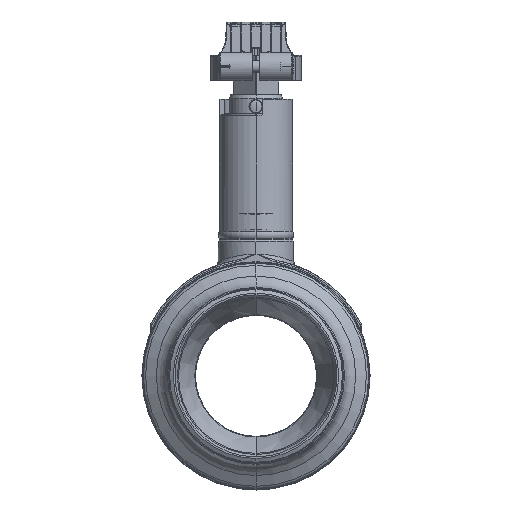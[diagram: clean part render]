
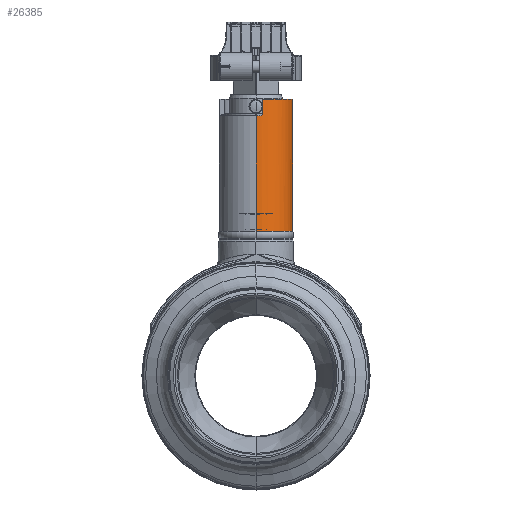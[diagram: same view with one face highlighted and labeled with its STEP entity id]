
A CAD part, left-side view. The second image highlights one B-rep face of the part: STEP entity #26385.
In plain terms, the highlighted cylindrical face has radius 24.15 mm (diameter 48.3 mm), a partial arc.
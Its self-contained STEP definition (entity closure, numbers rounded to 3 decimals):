
#3006=CARTESIAN_POINT('',(-23.816,-4.,172.5));
#3007=CARTESIAN_POINT('',(-23.816,-4.,172.486));
#3008=CARTESIAN_POINT('',(-23.817,-3.999,
172.457));
#3009=CARTESIAN_POINT('',(-23.818,-3.993,
172.414));
#3010=CARTESIAN_POINT('',(-23.819,-3.984,
172.371));
#3011=CARTESIAN_POINT('',(-23.821,-3.971,
172.33));
#3012=CARTESIAN_POINT('',(-23.824,-3.954,
172.29));
#3013=CARTESIAN_POINT('',(-23.827,-3.934,
172.251));
#3014=CARTESIAN_POINT('',(-23.831,-3.911,
172.214));
#3015=CARTESIAN_POINT('',(-23.835,-3.885,
172.18));
#3016=CARTESIAN_POINT('',(-23.84,-3.855,
172.147));
#3017=CARTESIAN_POINT('',(-23.845,-3.823,
172.118));
#3018=CARTESIAN_POINT('',(-23.851,-3.789,
172.091));
#3019=CARTESIAN_POINT('',(-23.857,-3.752,
172.067));
#3020=CARTESIAN_POINT('',(-23.863,-3.713,
172.047));
#3021=CARTESIAN_POINT('',(-23.869,-3.672,
172.03));
#3022=CARTESIAN_POINT('',(-23.876,-3.63,
172.017));
#3023=CARTESIAN_POINT('',(-23.882,-3.588,
172.007));
#3024=CARTESIAN_POINT('',(-23.889,-3.544,
172.001));
#3025=CARTESIAN_POINT('',(-23.893,-3.515,172.));
#3026=CARTESIAN_POINT('',(-23.895,-3.5,172.));
#3032=CARTESIAN_POINT('',(0.,0.,183.));
#3033=DIRECTION('',(0.,0.,-1.));
#3034=DIRECTION('',(-0.166,-0.986,0.));
#3035=AXIS2_PLACEMENT_3D('',#3032,#3033,#3034);
#3076=CARTESIAN_POINT('',(-3.5,-23.895,172.));
#3077=CARTESIAN_POINT('',(-3.515,-23.893,172.));
#3078=CARTESIAN_POINT('',(-3.544,-23.889,
172.001));
#3079=CARTESIAN_POINT('',(-3.588,-23.882,
172.007));
#3080=CARTESIAN_POINT('',(-3.63,-23.876,
172.017));
#3081=CARTESIAN_POINT('',(-3.672,-23.869,
172.03));
#3082=CARTESIAN_POINT('',(-3.713,-23.863,
172.047));
#3083=CARTESIAN_POINT('',(-3.752,-23.857,
172.067));
#3084=CARTESIAN_POINT('',(-3.789,-23.851,
172.091));
#3085=CARTESIAN_POINT('',(-3.823,-23.845,
172.118));
#3086=CARTESIAN_POINT('',(-3.855,-23.84,
172.147));
#3087=CARTESIAN_POINT('',(-3.885,-23.835,
172.18));
#3088=CARTESIAN_POINT('',(-3.911,-23.831,
172.214));
#3089=CARTESIAN_POINT('',(-3.934,-23.827,
172.251));
#3090=CARTESIAN_POINT('',(-3.954,-23.824,
172.29));
#3091=CARTESIAN_POINT('',(-3.971,-23.821,
172.33));
#3092=CARTESIAN_POINT('',(-3.984,-23.819,
172.371));
#3093=CARTESIAN_POINT('',(-3.993,-23.818,
172.414));
#3094=CARTESIAN_POINT('',(-3.999,-23.817,
172.457));
#3095=CARTESIAN_POINT('',(-4.,-23.816,172.486));
#3096=CARTESIAN_POINT('',(-4.,-23.816,172.5));
#3098=CARTESIAN_POINT('',(0.,0.,95.55));
#3099=DIRECTION('',(0.,0.,-1.));
#3100=DIRECTION('',(1.,0.,0.));
#3101=AXIS2_PLACEMENT_3D('',#3098,#3099,#3100);
#3103=CARTESIAN_POINT('',(0.,0.,172.));
#3104=DIRECTION('',(0.,0.,-1.));
#3105=DIRECTION('',(-0.989,-0.145,0.));
#3106=AXIS2_PLACEMENT_3D('',#3103,#3104,#3105);
#3108=DIRECTION('',(0.,0.,-1.));
#3109=VECTOR('',#3108,10.5);
#3110=CARTESIAN_POINT('',(-23.816,-4.,183.));
#3111=LINE('',#3110,#3109);
#3112=DIRECTION('',(0.,0.,-1.));
#3113=VECTOR('',#3112,10.5);
#3114=CARTESIAN_POINT('',(-4.,-23.816,183.));
#3115=LINE('',#3114,#3113);
#3116=CARTESIAN_POINT('',(0.,0.,172.));
#3117=DIRECTION('',(0.,0.,-1.));
#3118=DIRECTION('',(1.,0.,0.));
#3119=AXIS2_PLACEMENT_3D('',#3116,#3117,#3118);
#3164=DIRECTION('',(0.,0.,1.));
#3165=VECTOR('',#3164,76.45);
#3166=CARTESIAN_POINT('',(24.15,0.,95.55));
#3167=LINE('',#3166,#3165);
#3186=DIRECTION('',(0.,0.,1.));
#3187=VECTOR('',#3186,76.45);
#3188=CARTESIAN_POINT('',(-24.15,0.,95.55));
#3189=LINE('',#3188,#3187);
#19246=CARTESIAN_POINT('',(-4.,-23.816,183.));
#19247=CARTESIAN_POINT('',(-23.816,-4.,183.));
#19248=VERTEX_POINT('',#19246);
#19249=VERTEX_POINT('',#19247);
#19290=CARTESIAN_POINT('',(24.15,0.,172.));
#19291=CARTESIAN_POINT('',(-3.5,-23.895,172.));
#19292=VERTEX_POINT('',#19290);
#19293=VERTEX_POINT('',#19291);
#19294=CARTESIAN_POINT('',(-23.895,-3.5,172.));
#19295=CARTESIAN_POINT('',(-24.15,0.,172.));
#19296=VERTEX_POINT('',#19294);
#19297=VERTEX_POINT('',#19295);
#19298=CARTESIAN_POINT('',(-4.,-23.816,172.5));
#19299=VERTEX_POINT('',#19298);
#19300=CARTESIAN_POINT('',(-23.816,-4.,172.5));
#19301=VERTEX_POINT('',#19300);
#20695=CARTESIAN_POINT('',(24.15,0.,95.55));
#20696=CARTESIAN_POINT('',(-24.15,0.,95.55));
#20697=VERTEX_POINT('',#20695);
#20698=VERTEX_POINT('',#20696);
#26364=CARTESIAN_POINT('',(0.,0.,187.5));
#26365=DIRECTION('',(0.,0.,-1.));
#26366=DIRECTION('',(-1.,0.,0.));
#26367=AXIS2_PLACEMENT_3D('',#26364,#26365,#26366);
#26368=CYLINDRICAL_SURFACE('',#26367,24.15);
#26370=ORIENTED_EDGE('',*,*,#26369,.T.);
#26372=ORIENTED_EDGE('',*,*,#26371,.T.);
#26373=ORIENTED_EDGE('',*,*,#26281,.F.);
#26374=ORIENTED_EDGE('',*,*,#26298,.F.);
#26376=ORIENTED_EDGE('',*,*,#26375,.F.);
#26377=ORIENTED_EDGE('',*,*,#26329,.F.);
#26378=ORIENTED_EDGE('',*,*,#26346,.T.);
#26379=ORIENTED_EDGE('',*,*,#26358,.F.);
#26380=ORIENTED_EDGE('',*,*,#26188,.F.);
#26382=ORIENTED_EDGE('',*,*,#26381,.F.);
#26383=EDGE_LOOP('',(#26370,#26372,#26373,#26374,#26376,#26377,#26378,#26379,
#26380,#26382));
#26384=FACE_OUTER_BOUND('',#26383,.F.);
#3027=B_SPLINE_CURVE_WITH_KNOTS('',3,(#3006,#3007,#3008,#3009,#3010,#3011,#3012,
#3013,#3014,#3015,#3016,#3017,#3018,#3019,#3020,#3021,#3022,#3023,#3024,#3025,
#3026),.UNSPECIFIED.,.F.,.F.,(4,1,1,1,1,1,1,1,1,1,1,1,1,1,1,1,1,1,4),(0.,
0.056,0.111,0.167,0.222,
0.278,0.333,0.389,0.444,0.5,
0.556,0.611,0.667,0.722,
0.778,0.833,0.889,0.944,1.),
.UNSPECIFIED.);
#3036=CIRCLE('',#3035,24.15);
#3097=B_SPLINE_CURVE_WITH_KNOTS('',3,(#3076,#3077,#3078,#3079,#3080,#3081,#3082,
#3083,#3084,#3085,#3086,#3087,#3088,#3089,#3090,#3091,#3092,#3093,#3094,#3095,
#3096),.UNSPECIFIED.,.F.,.F.,(4,1,1,1,1,1,1,1,1,1,1,1,1,1,1,1,1,1,4),(0.,
0.056,0.111,0.167,0.222,
0.278,0.333,0.389,0.444,0.5,
0.556,0.611,0.667,0.722,
0.778,0.833,0.889,0.944,1.),
.UNSPECIFIED.);
#3102=CIRCLE('',#3101,24.15);
#3107=CIRCLE('',#3106,24.15);
#3120=CIRCLE('',#3119,24.15);
#26188=EDGE_CURVE('',#19292,#19293,#3120,.T.);
#26281=EDGE_CURVE('',#19296,#19297,#3107,.T.);
#26298=EDGE_CURVE('',#19301,#19296,#3027,.T.);
#26329=EDGE_CURVE('',#19248,#19249,#3036,.T.);
#26346=EDGE_CURVE('',#19248,#19299,#3115,.T.);
#26358=EDGE_CURVE('',#19293,#19299,#3097,.T.);
#26369=EDGE_CURVE('',#20697,#20698,#3102,.T.);
#26371=EDGE_CURVE('',#20698,#19297,#3189,.T.);
#26375=EDGE_CURVE('',#19249,#19301,#3111,.T.);
#26381=EDGE_CURVE('',#20697,#19292,#3167,.T.);
#26385=ADVANCED_FACE('',(#26384),#26368,.T.);
